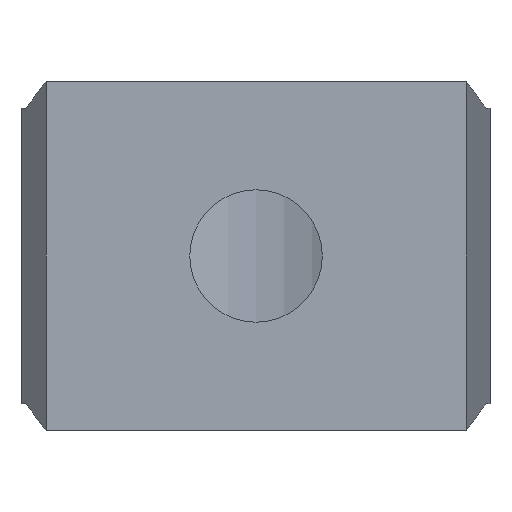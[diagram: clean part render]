
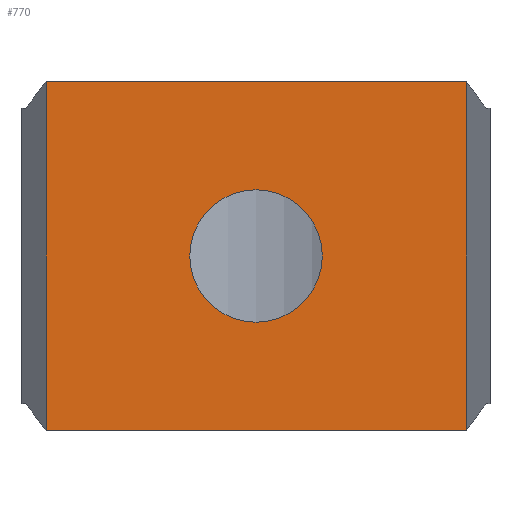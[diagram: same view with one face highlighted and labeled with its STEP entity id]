
A CAD part, front view. The second image highlights one B-rep face of the part: STEP entity #770.
In plain terms, the highlighted planar face has unit normal (0, -1, 0).
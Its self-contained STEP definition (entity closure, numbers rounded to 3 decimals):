
#20 = CARTESIAN_POINT ( 'NONE',  ( 0., 0., 0. ) ) ;
#145 = AXIS2_PLACEMENT_3D ( 'NONE', #1060, #1107, #1700 ) ;
#236 = VECTOR ( 'NONE', #3946, 1000. ) ;
#346 = DIRECTION ( 'NONE',  ( 0., -1., 0. ) ) ;
#404 = VERTEX_POINT ( 'NONE', #1323 ) ;
#489 = CIRCLE ( 'NONE', #1124, 3.25 ) ;
#626 = CARTESIAN_POINT ( 'NONE',  ( 10.3, 0., 8.55 ) ) ;
#638 = CARTESIAN_POINT ( 'NONE',  ( 0., 0., 8.55 ) ) ;
#705 = ORIENTED_EDGE ( 'NONE', *, *, #2206, .F. ) ;
#770 = ADVANCED_FACE ( 'NONE', ( #2544, #2173 ), #3397, .T. ) ;
#781 = VERTEX_POINT ( 'NONE', #3729 ) ;
#849 = ORIENTED_EDGE ( 'NONE', *, *, #1899, .T. ) ;
#961 = CARTESIAN_POINT ( 'NONE',  ( -10.3, 0., 8.55 ) ) ;
#1002 = EDGE_CURVE ( 'NONE', #1325, #2701, #3633, .T. ) ;
#1031 = DIRECTION ( 'NONE',  ( 0., 0., -1. ) ) ;
#1060 = CARTESIAN_POINT ( 'NONE',  ( 0., 0., 0. ) ) ;
#1107 = DIRECTION ( 'NONE',  ( 0., 1., 0. ) ) ;
#1115 = EDGE_LOOP ( 'NONE', ( #705, #3276, #2932, #849 ) ) ;
#1124 = AXIS2_PLACEMENT_3D ( 'NONE', #20, #3922, #1793 ) ;
#1317 = LINE ( 'NONE', #3101, #1963 ) ;
#1323 = CARTESIAN_POINT ( 'NONE',  ( 10.3, 0., -8.55 ) ) ;
#1325 = VERTEX_POINT ( 'NONE', #626 ) ;
#1358 = EDGE_CURVE ( 'NONE', #1517, #781, #489, .T. ) ;
#1517 = VERTEX_POINT ( 'NONE', #2874 ) ;
#1558 = CARTESIAN_POINT ( 'NONE',  ( 10.3, 0., 8.55 ) ) ;
#1559 = VECTOR ( 'NONE', #3418, 1000. ) ;
#1700 = DIRECTION ( 'NONE',  ( 0., 0., 1. ) ) ;
#1793 = DIRECTION ( 'NONE',  ( 0., 0., 1. ) ) ;
#1831 = CARTESIAN_POINT ( 'NONE',  ( -10.3, 0., -8.55 ) ) ;
#1899 = EDGE_CURVE ( 'NONE', #2701, #3705, #3437, .T. ) ;
#1963 = VECTOR ( 'NONE', #2247, 1000. ) ;
#2173 = FACE_OUTER_BOUND ( 'NONE', #1115, .T. ) ;
#2177 = LINE ( 'NONE', #1558, #2246 ) ;
#2206 = EDGE_CURVE ( 'NONE', #404, #3705, #1317, .T. ) ;
#2246 = VECTOR ( 'NONE', #1031, 1000. ) ;
#2247 = DIRECTION ( 'NONE',  ( -1., 0., 0. ) ) ;
#2509 = DIRECTION ( 'NONE',  ( 1., 0., 0. ) ) ;
#2544 = FACE_BOUND ( 'NONE', #3172, .T. ) ;
#2573 = CIRCLE ( 'NONE', #145, 3.25 ) ;
#2663 = ORIENTED_EDGE ( 'NONE', *, *, #3563, .T. ) ;
#2701 = VERTEX_POINT ( 'NONE', #3130 ) ;
#2731 = CARTESIAN_POINT ( 'NONE',  ( 0., 0., 8.55 ) ) ;
#2849 = AXIS2_PLACEMENT_3D ( 'NONE', #638, #346, #2509 ) ;
#2874 = CARTESIAN_POINT ( 'NONE',  ( 0., 0., 3.25 ) ) ;
#2932 = ORIENTED_EDGE ( 'NONE', *, *, #1002, .T. ) ;
#2970 = EDGE_CURVE ( 'NONE', #1325, #404, #2177, .T. ) ;
#3101 = CARTESIAN_POINT ( 'NONE',  ( 0., 0., -8.55 ) ) ;
#3130 = CARTESIAN_POINT ( 'NONE',  ( -10.3, 0., 8.55 ) ) ;
#3172 = EDGE_LOOP ( 'NONE', ( #3588, #2663 ) ) ;
#3276 = ORIENTED_EDGE ( 'NONE', *, *, #2970, .F. ) ;
#3397 = PLANE ( 'NONE',  #2849 ) ;
#3418 = DIRECTION ( 'NONE',  ( 0., 0., -1. ) ) ;
#3437 = LINE ( 'NONE', #961, #1559 ) ;
#3563 = EDGE_CURVE ( 'NONE', #781, #1517, #2573, .T. ) ;
#3588 = ORIENTED_EDGE ( 'NONE', *, *, #1358, .T. ) ;
#3633 = LINE ( 'NONE', #2731, #236 ) ;
#3705 = VERTEX_POINT ( 'NONE', #1831 ) ;
#3729 = CARTESIAN_POINT ( 'NONE',  ( 0., 0., -3.25 ) ) ;
#3922 = DIRECTION ( 'NONE',  ( 0., 1., 0. ) ) ;
#3946 = DIRECTION ( 'NONE',  ( -1., 0., 0. ) ) ;
